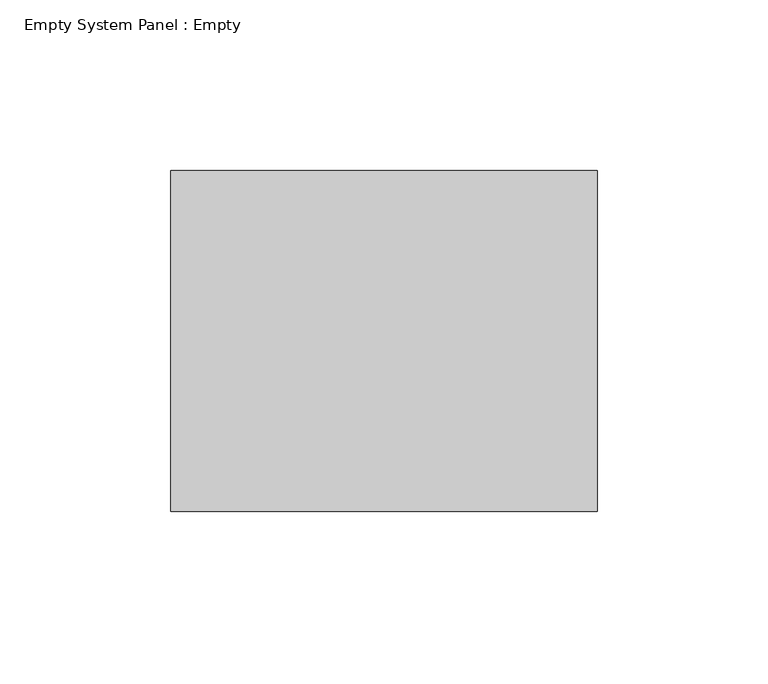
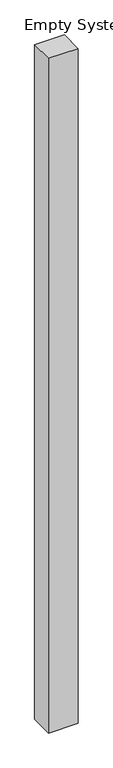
"""IFC4 building model written with IfcOpenShell, lengths in millimetres: plate geometry, Empty System Panel : Empty."""

from ifc_helpers import new_model, si_unit, origin, origin_with_axes, place, context, project, spatial, polyline, outline, extrude, source, transform, mapped, element, save


def empty_system_panel_empty_a8601f27(model_context):
    return source(origin(), model_context, "Body", "SweptSolid", [
        extrude(outline(polyline([(62.5000002, 50.0), (-62.5000002, 50.0), (-62.5000002, 150.0), (62.5000002, 150.0), (62.5000002, 50.0)])), origin_with_axes(), (0.0, 0.0, 1.0), 3000.0),
    ])


if __name__ == "__main__":
    model = new_model("IFC4")
    model_context = context("Model", 3, world=origin())
    ifc_project = project(units=[si_unit("LENGTHUNIT", "METRE", prefix="MILLI")], contexts=[model_context])
    site = spatial("IfcSite", under=ifc_project)
    building = spatial("IfcBuilding", under=site)
    placement = place(None, origin())
    empty_system_panel_empty_shape = empty_system_panel_empty_a8601f27(model_context)
    element("IfcPlate", 1, ObjectType="Empty System Panel : Empty", at=placement, inside=building, context=model_context, shape_type="MappedRepresentation", body=[
        mapped(empty_system_panel_empty_shape, transform((0.0, 0.0, 0.0), x_axis=(1.0, 0.0, 0.0), y_axis=(0.0, 1.0, 0.0), z_axis=(0.0, 0.0, 1.0))),
    ])
    save(model, "model.ifc")
